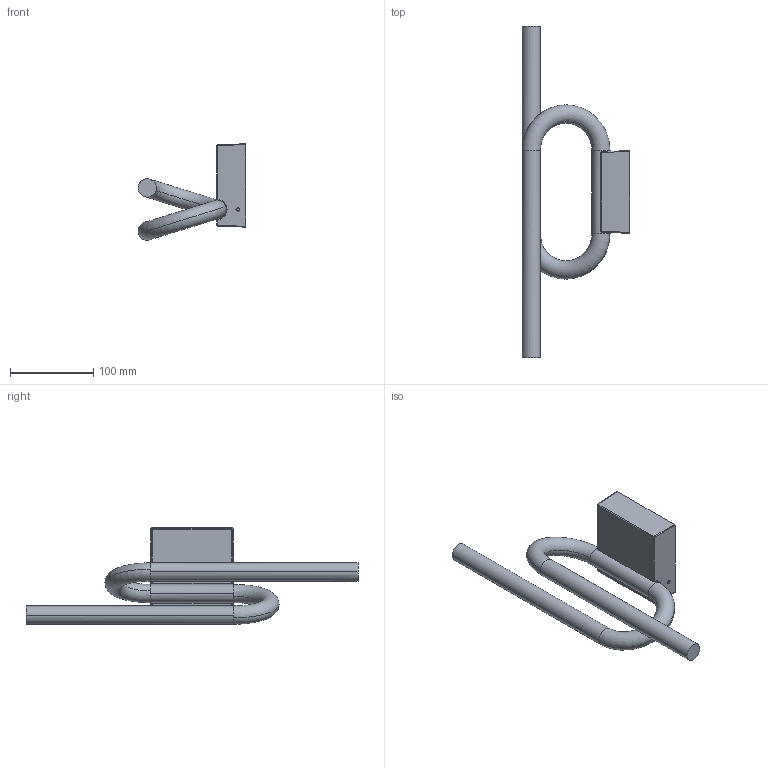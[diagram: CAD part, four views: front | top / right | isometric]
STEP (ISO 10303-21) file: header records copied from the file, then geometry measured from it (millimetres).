
FILE_DESCRIPTION (( 'STEP AP203' ), '1' );
FILE_NAME ('TOBIA_parete.STEP', '2020-03-17T09:29:46', ( '' ), ( '' ), 'SwSTEP 2.0', 'SolidWorks 2020', '' );
FILE_SCHEMA (( 'CONFIG_CONTROL_DESIGN' ));
Length unit declared in the file: millimetre
Products named in the file (1): TOBIA_parete
Bounding box: 130 x 400 x 116.22 mm (x, y, z)
Volume: 655434.4 mm3; surface area: 89502 mm2
Topology: 1 solids, 1 shells, 57 faces, 150 edges, 96 vertices
Faces by surface type: cylinder 20, plane 20, sphere 8, torus 4, bspline 3, cone 2
Entity records: 2032 total; most frequent: CARTESIAN_POINT 597, ORIENTED_EDGE 300, DIRECTION 275, EDGE_CURVE 150, AXIS2_PLACEMENT_3D 106, VERTEX_POINT 96, LINE 63, VECTOR 63
